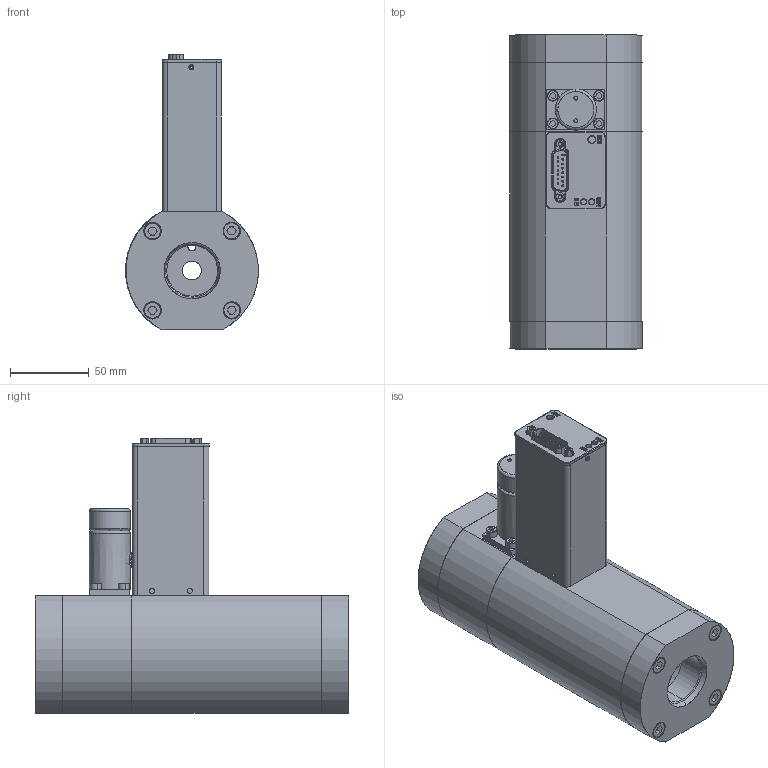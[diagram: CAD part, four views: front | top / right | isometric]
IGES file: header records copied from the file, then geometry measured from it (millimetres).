
Start section: SolidWorks IGES file using analytic representation for surfaces
Global section: file name: G:\Engineering\CAD MODELS FOR SALES\CAD MODEL STORAGE\SLA\SLA5853\IGES\SLA5853-S-2R-2-C-REVB.IGS; native system: SolidWorks 2017; preprocessor: SolidWorks 2017; author: CFehr; date: 171003.105620; units: inch
Bounding box: 84.21 x 198.8 x 174.47 mm (x, y, z)
Surface area: 131205.4 mm2 (no closed solid volume)
Topology: 0 solids, 0 shells, 539 faces, 7858 edges, 7857 vertices
Faces by surface type: bspline 283, revolution 256
